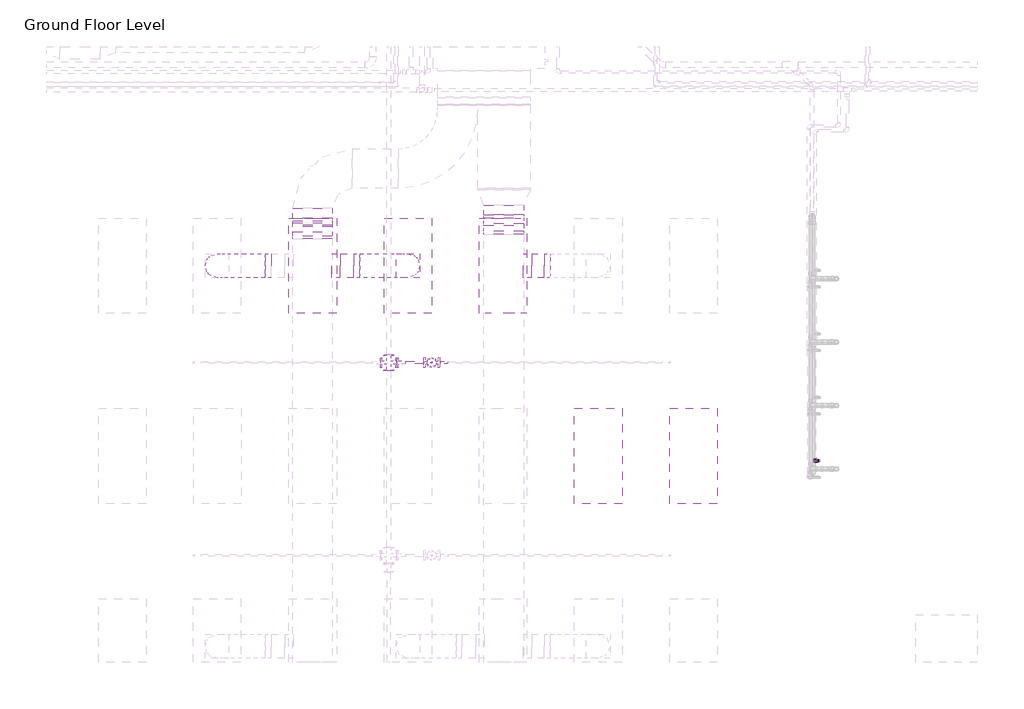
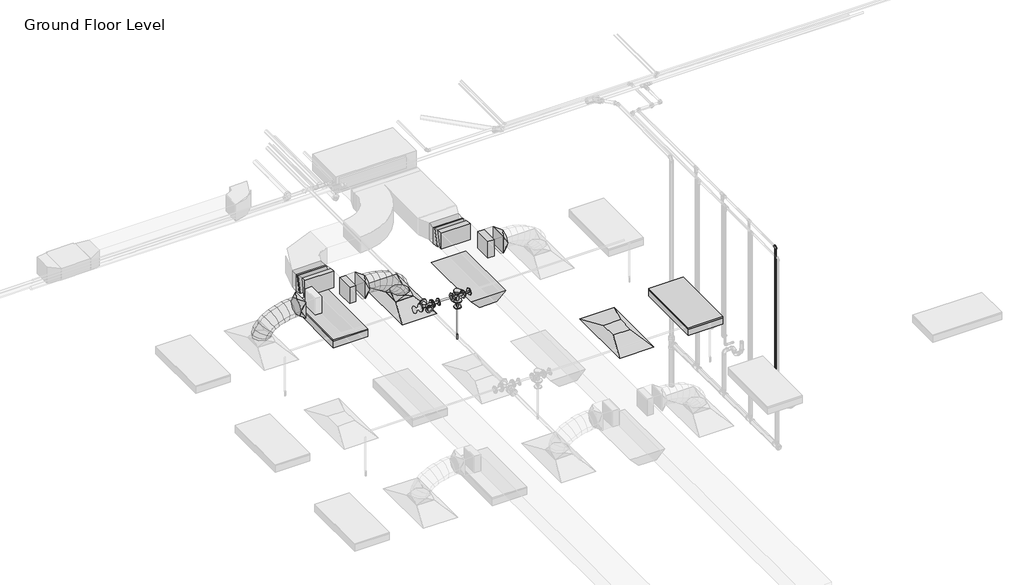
# One storey, part 49 of 72: 11 duct fittings, 8 duct segments, 7 pipe fittings, 4 pipe segments, 3 light fixtures, 2 air terminals, 1 fire suppression terminal.
"""IFC4 building model written with IfcOpenShell, lengths in millimetres."""

from ifc_helpers import new_model, si_unit, point, frame, frame_2d, origin, place, context, project, spatial, polyline, circle_curve, ellipse_curve, trimmed, segment, composite_curve, outline, extrude, transform, mapped, element, save
from ifc_brep_helpers import plane_surface, cylinder_surface, advanced_brep
from components import m_return_diffuser_1200x600_1200_x_600_face_300_x_300_d1983ef6, m_rectangular_elbow_radius_1_w_f78a0081, m_rectangular_elbow_radius_1_w_1a1d0e92, m_rectangular_takeoff_standard_cb0ccb98, m_rectangular_transition_angle_45_degree_8d40617b, m_rectangular_to_round_transition_angle_45_degree_641efff0, m_sprinkler_dry_pendent_hosted_15_mm_dry_pendent_9bda8e11, m_emergency_recessed_lighting_fixture_600x1200_277_5b10b25d, m_troffer_light_parabolic_rectangular1_0600x1200mm_4_lamp_86473d4a, m_cross_flanged_cs_class_150_standard_fc817054, m_reducer_flanged_cs_class_150_standard_ccf252ad, m_reducer_flanged_cs_class_150_standard_d42b2106, m_reducer_flanged_cs_class_150_standard_8338f9e4, m_tee_round_base_flanged_cs_class_150_standard_7e5987a1, standard_b266ab3f

model = new_model("IFC4")

# Units and contexts
model_context = context("Model", 3, world=origin())
ifc_project = project(units=[si_unit("LENGTHUNIT", "METRE", prefix="MILLI")], contexts=[model_context])

# Site, building, storey
site = spatial("IfcSite", under=ifc_project)
building = spatial("IfcBuilding", under=site)
storey = spatial("IfcBuildingStorey", under=building, Name="Ground Floor Level", Elevation=900.0)

# Air terminals
placement = place(None, origin())
m_return_diffuser_1200x600_1200_x_600_face_300_x_300_shape = m_return_diffuser_1200x600_1200_x_600_face_300_x_300_d1983ef6(model_context)
element("IfcAirTerminal", 1, ObjectType="M_Return Diffuser 1200x600 : 1200 x 600 Face 300 x 300 Connection", at=placement, inside=storey, context=model_context, shape_type="MappedRepresentation", body=[
    mapped(m_return_diffuser_1200x600_1200_x_600_face_300_x_300_shape, transform((-3337.2327605, 8835.2153534, 3650.0), x_axis=(0.0, 1.0, 0.0), y_axis=(-1.0, 0.0, 0.0), z_axis=(0.0, 0.0, 1.0))),
])
element("IfcAirTerminal", 2, ObjectType="M_Supply Diffuser 1200x600 : 1200 x 600 Face 300 x 300 Connection", at=placement, inside=storey, context=model_context, shape_type="MappedRepresentation", body=[
    mapped(m_return_diffuser_1200x600_1200_x_600_face_300_x_300_shape, transform((-5737.2327605, 11235.2153534, 3650.0), x_axis=(0.0, 1.0, 0.0), y_axis=(-1.0, 0.0, 0.0), z_axis=(0.0, 0.0, 1.0))),
])

# Duct fittings
m_rectangular_elbow_radius_1_w_shape = m_rectangular_elbow_radius_1_w_f78a0081(model_context)
element("IfcDuctFitting", 3, ObjectType="M_Rectangular Elbow - Radius : 1 W", at=placement, inside=storey, context=model_context, shape_type="MappedRepresentation", body=[
    mapped(m_rectangular_elbow_radius_1_w_shape, transform((-4528.6910789, 11671.1593756, 4149.9980527), x_axis=(0.0, 0.999999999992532, -3.864729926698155e-06), y_axis=(0.0, -3.864729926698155e-06, -0.999999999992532), z_axis=(-1.0, 0.0, 0.0))),
])
element("IfcDuctFitting", 4, ObjectType="M_Rectangular Elbow - Radius : 1 W", at=placement, inside=storey, context=model_context, shape_type="MappedRepresentation", body=[
    mapped(m_rectangular_elbow_radius_1_w_shape, transform((-4528.6910789, 11835.9032855, 4107.134916), x_axis=(0.0, -0.999999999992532, 3.864729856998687e-06), y_axis=(0.0, 3.864729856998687e-06, 0.999999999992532), z_axis=(-1.0, 0.0, 0.0))),
])
m_rectangular_elbow_radius_1_w_2_shape = m_rectangular_elbow_radius_1_w_1a1d0e92(model_context)
element("IfcDuctFitting", 5, ObjectType="M_Rectangular Elbow - Radius : 1 W", at=placement, inside=storey, context=model_context, shape_type="MappedRepresentation", body=[
    mapped(m_rectangular_elbow_radius_1_w_2_shape, transform((-6939.6910789, 11605.2153534, 4150.0), x_axis=(0.0, 1.0, 0.0), y_axis=(-4.8368849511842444e-06, 0.0, -0.9999999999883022), z_axis=(-0.9999999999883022, 0.0, 4.8368849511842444e-06))),
])
element("IfcDuctFitting", 6, ObjectType="M_Rectangular Elbow - Radius : 1 W", at=placement, inside=storey, context=model_context, shape_type="MappedRepresentation", body=[
    mapped(m_rectangular_elbow_radius_1_w_2_shape, transform((-6939.6912607, 11801.8710367, 4107.1399598), x_axis=(0.0, -1.0, 0.0), y_axis=(4.836885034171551e-06, 0.0, 0.9999999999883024), z_axis=(-0.9999999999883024, 0.0, 4.836885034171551e-06))),
])
m_rectangular_takeoff_standard_shape = m_rectangular_takeoff_standard_cb0ccb98(model_context)
element("IfcDuctFitting", 7, ObjectType="M_Rectangular Takeoff : Standard", at=placement, inside=storey, context=model_context, shape_type="MappedRepresentation", body=[
    mapped(m_rectangular_takeoff_standard_shape, transform((-4278.6910789, 11235.2153534, 4150.0), x_axis=(1.0, 0.0, 0.0), y_axis=(0.0, -1.0, 0.0), z_axis=(0.0, 0.0, -1.0))),
])
element("IfcDuctFitting", 8, ObjectType="M_Rectangular Takeoff : Standard", at=placement, inside=storey, context=model_context, shape_type="MappedRepresentation", body=[
    mapped(m_rectangular_takeoff_standard_shape, transform((-6689.6910789, 11235.2153534, 4150.0), x_axis=(1.0, 0.0, 0.0), y_axis=(0.0, -1.0, 0.0), z_axis=(0.0, 0.0, -1.0))),
])
m_rectangular_transition_angle_45_degree_shape = m_rectangular_transition_angle_45_degree_8d40617b(model_context)
element("IfcDuctFitting", 9, ObjectType="M_Rectangular Transition - Angle : 45 Degree", at=placement, inside=storey, context=model_context, shape_type="MappedRepresentation", body=[
    mapped(m_rectangular_transition_angle_45_degree_shape, transform((-6939.6912351, 11774.1025359, 4112.4195134), x_axis=(9.034404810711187e-07, -0.9824014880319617, 0.18678146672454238), y_axis=(0.9999999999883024, 0.0, -4.836885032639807e-06), z_axis=(4.751763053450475e-06, 0.1867814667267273, 0.9824014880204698))),
])
m_rectangular_to_round_transition_angle_45_degree_shape = m_rectangular_to_round_transition_angle_45_degree_641efff0(model_context)
element("IfcDuctFitting", 10, ObjectType="M_Rectangular to Round Transition - Angle : 45 Degree", at=placement, inside=storey, context=model_context, shape_type="MappedRepresentation", body=[
    mapped(m_rectangular_to_round_transition_angle_45_degree_shape, transform((-7461.2487616, 11235.2153534, 4150.0), x_axis=(-1.0, 0.0, 0.0), y_axis=(0.0, -1.0, 0.0), z_axis=(0.0, 0.0, 1.0))),
])
element("IfcDuctFitting", 11, ObjectType="M_Rectangular to Round Transition - Angle : 45 Degree", at=placement, inside=storey, context=model_context, shape_type="MappedRepresentation", body=[
    mapped(m_rectangular_to_round_transition_angle_45_degree_shape, transform((-5737.2327605, 11235.2153534, 3751.6), x_axis=(0.0, 0.0, 1.0), y_axis=(-1.0, 0.0, 0.0), z_axis=(0.0, -1.0, 0.0))),
])
element("IfcDuctFitting", 12, ObjectType="M_Rectangular to Round Transition - Angle : 45 Degree", at=placement, inside=storey, context=model_context, shape_type="MappedRepresentation", body=[
    mapped(m_rectangular_to_round_transition_angle_45_degree_shape, transform((-6418.6686918, 11235.2153534, 4150.0), x_axis=(1.0, 0.0, 0.0), y_axis=(0.0, 1.0, 0.0), z_axis=(0.0, 0.0, 1.0))),
])
element("IfcDuctFitting", 13, ObjectType="M_Rectangular to Round Transition - Angle : 45 Degree", at=placement, inside=storey, context=model_context, shape_type="MappedRepresentation", body=[
    mapped(m_rectangular_to_round_transition_angle_45_degree_shape, transform((-4018.6725245, 11235.2153534, 4150.0), x_axis=(1.0, 0.0, 0.0), y_axis=(0.0, 1.0, 0.0), z_axis=(0.0, 0.0, 1.0))),
])

# Duct segments
element("IfcDuctSegment", 14, ObjectType="Flex - Round", at=placement, inside=storey, context=model_context, shape_type="AdvancedBrep", body=[
    advanced_brep(
    [(-7992.6846929, 11235.2153534, 3826.6), (-8142.6846929, 11085.2153534, 3826.6), (-8292.6846929, 11235.2153534, 3826.6), (-8142.6846929, 11385.2153534, 3826.6), (-7992.6846929, 11235.2153534, 3832.4838104), (-8142.6846929, 11085.2153534, 3857.3049615), (-8292.6846929, 11235.2153534, 3882.1261126), (-8142.6846929, 11385.2153534, 3857.3049615), (-7990.555208, 11235.2153534, 3838.7421096), (-8126.0232883, 11085.2153534, 3906.2708192), (-8261.4913687, 11235.2153534, 3973.7995287), (-8126.0232883, 11385.2153534, 3906.2708192), (-7968.5331802, 11235.2153534, 3871.1472855), (-8080.1452707, 11085.2153534, 3973.7798261), (-8191.7573612, 11235.2153534, 4076.4123668), (-8080.1452707, 11385.2153534, 3973.7798261), (-7928.5904556, 11235.2153534, 3903.4915826), (-8011.2099341, 11085.2153534, 4029.6013814), (-8093.8294126, 11235.2153534, 4155.7111802), (-8011.2099341, 11385.2153534, 4029.6013814), (-7865.6682729, 11235.2153534, 3936.1928758), (-7925.3765727, 11085.2153534, 4074.2098454), (-7985.0848725, 11235.2153534, 4212.226815), (-7925.3765727, 11385.2153534, 4074.2098454), (-7786.815881, 11235.2153534, 3963.8479616), (-7828.8044806, 11085.2153534, 4108.0795788), (-7870.7930803, 11235.2153534, 4252.311196), (-7828.8044806, 11385.2153534, 4108.0795788), (-7700.2438983, 11235.2153534, 3984.0509494), (-7727.652952, 11085.2153534, 4131.684942), (-7755.0620057, 11235.2153534, 4279.3189347), (-7727.652952, 11385.2153534, 4131.684942), (-7613.759715, 11235.2153534, 3996.0504424), (-7628.081281, 11085.2153534, 4145.5002956), (-7642.4028469, 11235.2153534, 4294.9501488), (-7628.081281, 11385.2153534, 4145.5002956), (-7539.5984134, 11235.2153534, 4000.0), (-7543.5898089, 11085.2153534, 4150.0), (-7547.5812043, 11235.2153534, 4300.0), (-7543.5898089, 11385.2153534, 4150.0), (-7536.2487616, 11235.2153534, 4000.0), (-7536.2487616, 11385.2153534, 4150.0), (-7536.2487616, 11235.2153534, 4300.0), (-7536.2487616, 11085.2153534, 4150.0)],
    [
        (0, 1, circle_curve(frame((-8142.6846929, 11235.2153534, 3826.6), z_axis=(0.0, 0.0, -1.0), x_axis=(1.0, 0.0, 0.0)), 150.0)),
        (1, 2, circle_curve(frame((-8142.6846929, 11235.2153534, 3826.6), z_axis=(0.0, 0.0, -1.0), x_axis=(1.0, 0.0, 0.0)), 150.0)),
        (2, 3, circle_curve(frame((-8142.6846929, 11235.2153534, 3826.6), z_axis=(0.0, 0.0, -1.0), x_axis=(1.0, 0.0, 0.0)), 150.0)),
        (3, 0, circle_curve(frame((-8142.6846929, 11235.2153534, 3826.6), z_axis=(0.0, 0.0, -1.0), x_axis=(1.0, 0.0, 0.0)), 150.0)),
        (0, 4),
        (4, 5, ellipse_curve(frame((-8142.6846929, 11235.2153534, 3857.3049615), z_axis=(-0.1632543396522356, 0.0, -0.9865840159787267), x_axis=(0.9865840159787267, 0.0, -0.16325433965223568)), 152.039763, 150.0)),
        (5, 1),
        (5, 6, ellipse_curve(frame((-8142.6846929, 11235.2153534, 3857.3049615), z_axis=(-0.1632543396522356, 0.0, -0.9865840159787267), x_axis=(0.9865840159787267, 0.0, -0.16325433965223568)), 152.039763, 150.0)),
        (6, 2),
        (6, 7, ellipse_curve(frame((-8142.6846929, 11235.2153534, 3857.3049615), z_axis=(-0.1632543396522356, 0.0, -0.9865840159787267), x_axis=(0.9865840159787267, 0.0, -0.16325433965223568)), 152.039763, 150.0)),
        (7, 3),
        (7, 4, ellipse_curve(frame((-8142.6846929, 11235.2153534, 3857.3049615), z_axis=(-0.1632543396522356, 0.0, -0.9865840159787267), x_axis=(0.9865840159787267, 0.0, -0.16325433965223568)), 152.039763, 150.0)),
        (4, 8),
        (8, 9, ellipse_curve(frame((-8126.0232883, 11235.2153534, 3906.2708192), z_axis=(-0.4461280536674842, 0.0, -0.8949691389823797), x_axis=(0.8949691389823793, 0.0, -0.4461280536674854)), 151.366203, 150.0)),
        (9, 5),
        (9, 10, ellipse_curve(frame((-8126.0232883, 11235.2153534, 3906.2708192), z_axis=(-0.4461280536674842, 0.0, -0.8949691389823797), x_axis=(0.8949691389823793, 0.0, -0.4461280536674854)), 151.366203, 150.0)),
        (10, 6),
        (10, 11, ellipse_curve(frame((-8126.0232883, 11235.2153534, 3906.2708192), z_axis=(-0.4461280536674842, 0.0, -0.8949691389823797), x_axis=(0.8949691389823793, 0.0, -0.4461280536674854)), 151.366203, 150.0)),
        (11, 7),
        (11, 8, ellipse_curve(frame((-8126.0232883, 11235.2153534, 3906.2708192), z_axis=(-0.4461280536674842, 0.0, -0.8949691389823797), x_axis=(0.8949691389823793, 0.0, -0.4461280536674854)), 151.366203, 150.0)),
        (8, 12),
        (12, 13, ellipse_curve(frame((-8080.1452707, 11235.2153534, 3973.7798261), z_axis=(-0.676875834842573, 0.0, -0.7360972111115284), x_axis=(0.7360972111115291, 0.0, -0.6768758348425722)), 151.6268352, 150.0)),
        (13, 9),
        (13, 14, ellipse_curve(frame((-8080.1452707, 11235.2153534, 3973.7798261), z_axis=(-0.676875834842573, 0.0, -0.7360972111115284), x_axis=(0.7360972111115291, 0.0, -0.6768758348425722)), 151.6268352, 150.0)),
        (14, 10),
        (14, 15, ellipse_curve(frame((-8080.1452707, 11235.2153534, 3973.7798261), z_axis=(-0.676875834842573, 0.0, -0.7360972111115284), x_axis=(0.7360972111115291, 0.0, -0.6768758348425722)), 151.6268352, 150.0)),
        (15, 11),
        (15, 12, ellipse_curve(frame((-8080.1452707, 11235.2153534, 3973.7798261), z_axis=(-0.676875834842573, 0.0, -0.7360972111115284), x_axis=(0.7360972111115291, 0.0, -0.6768758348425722)), 151.6268352, 150.0)),
        (12, 16),
        (16, 17, ellipse_curve(frame((-8011.2099341, 11235.2153534, 4029.6013814), z_axis=(-0.8364738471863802, 0.0, -0.5480068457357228), x_axis=(0.5480068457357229, 0.0, -0.8364738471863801)), 150.7635884, 150.0)),
        (17, 13),
        (17, 18, ellipse_curve(frame((-8011.2099341, 11235.2153534, 4029.6013814), z_axis=(-0.8364738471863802, 0.0, -0.5480068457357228), x_axis=(0.5480068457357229, 0.0, -0.8364738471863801)), 150.7635884, 150.0)),
        (18, 14),
        (18, 19, ellipse_curve(frame((-8011.2099341, 11235.2153534, 4029.6013814), z_axis=(-0.8364738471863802, 0.0, -0.5480068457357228), x_axis=(0.5480068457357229, 0.0, -0.8364738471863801)), 150.7635884, 150.0)),
        (19, 15),
        (19, 16, ellipse_curve(frame((-8011.2099341, 11235.2153534, 4029.6013814), z_axis=(-0.8364738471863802, 0.0, -0.5480068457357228), x_axis=(0.5480068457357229, 0.0, -0.8364738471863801)), 150.7635884, 150.0)),
        (16, 20),
        (20, 21, ellipse_curve(frame((-7925.3765727, 11235.2153534, 4074.2098454), z_axis=(-0.917795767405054, 0.0, -0.3970528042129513), x_axis=(0.3970528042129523, 0.0, -0.9177957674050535)), 150.3787384, 150.0)),
        (21, 17),
        (21, 22, ellipse_curve(frame((-7925.3765727, 11235.2153534, 4074.2098454), z_axis=(-0.917795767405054, 0.0, -0.3970528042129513), x_axis=(0.3970528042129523, 0.0, -0.9177957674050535)), 150.3787384, 150.0)),
        (22, 18),
        (22, 23, ellipse_curve(frame((-7925.3765727, 11235.2153534, 4074.2098454), z_axis=(-0.917795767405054, 0.0, -0.3970528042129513), x_axis=(0.3970528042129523, 0.0, -0.9177957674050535)), 150.3787384, 150.0)),
        (23, 19),
        (23, 20, ellipse_curve(frame((-7925.3765727, 11235.2153534, 4074.2098454), z_axis=(-0.917795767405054, 0.0, -0.3970528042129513), x_axis=(0.3970528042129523, 0.0, -0.9177957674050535)), 150.3787384, 150.0)),
        (20, 24),
        (24, 25, ellipse_curve(frame((-7828.8044806, 11235.2153534, 4108.0795788), z_axis=(-0.9601411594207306, 0.0, -0.2795155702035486), x_axis=(0.27951557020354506, 0.0, -0.9601411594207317)), 150.2191795, 150.0)),
        (25, 21),
        (25, 26, ellipse_curve(frame((-7828.8044806, 11235.2153534, 4108.0795788), z_axis=(-0.9601411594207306, 0.0, -0.2795155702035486), x_axis=(0.27951557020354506, 0.0, -0.9601411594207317)), 150.2191795, 150.0)),
        (26, 22),
        (26, 27, ellipse_curve(frame((-7828.8044806, 11235.2153534, 4108.0795788), z_axis=(-0.9601411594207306, 0.0, -0.2795155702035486), x_axis=(0.27951557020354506, 0.0, -0.9601411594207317)), 150.2191795, 150.0)),
        (27, 23),
        (27, 24, ellipse_curve(frame((-7828.8044806, 11235.2153534, 4108.0795788), z_axis=(-0.9601411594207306, 0.0, -0.2795155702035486), x_axis=(0.27951557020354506, 0.0, -0.9601411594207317)), 150.2191795, 150.0)),
        (24, 28),
        (28, 29, ellipse_curve(frame((-7727.652952, 11235.2153534, 4131.684942), z_axis=(-0.9831991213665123, 0.0, -0.1825362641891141), x_axis=(0.18253626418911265, 0.0, -0.9831991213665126)), 150.1567581, 150.0)),
        (29, 25),
        (29, 30, ellipse_curve(frame((-7727.652952, 11235.2153534, 4131.684942), z_axis=(-0.9831991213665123, 0.0, -0.1825362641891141), x_axis=(0.18253626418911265, 0.0, -0.9831991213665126)), 150.1567581, 150.0)),
        (30, 26),
        (30, 31, ellipse_curve(frame((-7727.652952, 11235.2153534, 4131.684942), z_axis=(-0.9831991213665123, 0.0, -0.1825362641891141), x_axis=(0.18253626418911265, 0.0, -0.9831991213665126)), 150.1567581, 150.0)),
        (31, 27),
        (31, 28, ellipse_curve(frame((-7727.652952, 11235.2153534, 4131.684942), z_axis=(-0.9831991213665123, 0.0, -0.1825362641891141), x_axis=(0.18253626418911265, 0.0, -0.9831991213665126)), 150.1567581, 150.0)),
        (28, 32),
        (32, 33, ellipse_curve(frame((-7628.081281, 11235.2153534, 4145.5002956), z_axis=(-0.9954398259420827, 0.0, -0.09539157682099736), x_axis=(0.09539157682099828, 0.0, -0.9954398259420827)), 150.1344926, 150.0)),
        (33, 29),
        (33, 34, ellipse_curve(frame((-7628.081281, 11235.2153534, 4145.5002956), z_axis=(-0.9954398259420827, 0.0, -0.09539157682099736), x_axis=(0.09539157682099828, 0.0, -0.9954398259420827)), 150.1344926, 150.0)),
        (34, 30),
        (34, 35, ellipse_curve(frame((-7628.081281, 11235.2153534, 4145.5002956), z_axis=(-0.9954398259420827, 0.0, -0.09539157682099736), x_axis=(0.09539157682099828, 0.0, -0.9954398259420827)), 150.1344926, 150.0)),
        (35, 31),
        (35, 32, ellipse_curve(frame((-7628.081281, 11235.2153534, 4145.5002956), z_axis=(-0.9954398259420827, 0.0, -0.09539157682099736), x_axis=(0.09539157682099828, 0.0, -0.9954398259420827)), 150.1344926, 150.0)),
        (32, 36),
        (36, 37, ellipse_curve(frame((-7543.5898089, 11235.2153534, 4150.0), z_axis=(-0.9996461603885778, 0.0, -0.026599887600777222), x_axis=(0.026599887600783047, 0.0, -0.9996461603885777)), 150.0530947, 150.0)),
        (37, 33),
        (37, 38, ellipse_curve(frame((-7543.5898089, 11235.2153534, 4150.0), z_axis=(-0.9996461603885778, 0.0, -0.026599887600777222), x_axis=(0.026599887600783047, 0.0, -0.9996461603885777)), 150.0530947, 150.0)),
        (38, 34),
        (38, 39, ellipse_curve(frame((-7543.5898089, 11235.2153534, 4150.0), z_axis=(-0.9996461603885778, 0.0, -0.026599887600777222), x_axis=(0.026599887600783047, 0.0, -0.9996461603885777)), 150.0530947, 150.0)),
        (39, 35),
        (39, 36, ellipse_curve(frame((-7543.5898089, 11235.2153534, 4150.0), z_axis=(-0.9996461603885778, 0.0, -0.026599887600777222), x_axis=(0.026599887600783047, 0.0, -0.9996461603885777)), 150.0530947, 150.0)),
        (40, 41, circle_curve(frame((-7536.2487616, 11235.2153534, 4150.0), z_axis=(1.0, 0.0, 0.0), x_axis=(0.0, 0.0, -1.0)), 150.0)),
        (41, 42, circle_curve(frame((-7536.2487616, 11235.2153534, 4150.0), z_axis=(1.0, 0.0, 0.0), x_axis=(0.0, 0.0, -1.0)), 150.0)),
        (42, 43, circle_curve(frame((-7536.2487616, 11235.2153534, 4150.0), z_axis=(1.0, 0.0, 0.0), x_axis=(0.0, 0.0, -1.0)), 150.0)),
        (43, 40, circle_curve(frame((-7536.2487616, 11235.2153534, 4150.0), z_axis=(1.0, 0.0, 0.0), x_axis=(0.0, 0.0, -1.0)), 150.0)),
        (36, 40),
        (43, 37),
        (42, 38),
        (41, 39),
    ],
    [
        plane_surface(frame((-8142.6846929, 11085.2153534, 3826.6), z_axis=(0.0, 0.0, -1.0), x_axis=(1.0, 0.0, 0.0))),
        cylinder_surface(frame((-8142.6846929, 11235.2153534, 3826.6), z_axis=(0.0, 0.0, -1.0), x_axis=(1.0, 0.0, 0.0)), 150.0),
        cylinder_surface(frame((-8142.6846929, 11235.2153534, 3857.3049615), z_axis=(-0.32212824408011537, 0.0, -0.946696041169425), x_axis=(0.946696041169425, 0.0, -0.32212824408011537)), 150.0),
        cylinder_surface(frame((-8126.0232883, 11235.2153534, 3906.2708192), z_axis=(-0.5620745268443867, 0.0, -0.8270865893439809), x_axis=(0.8270865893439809, 0.0, -0.5620745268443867)), 150.0),
        cylinder_surface(frame((-8080.1452707, 11235.2153534, 3973.7798261), z_axis=(-0.777152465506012, 0.0, -0.6293123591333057), x_axis=(0.6293123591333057, 0.0, -0.777152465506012)), 150.0),
        cylinder_surface(frame((-8011.2099341, 11235.2153534, 4029.6013814), z_axis=(-0.887322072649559, 0.0, -0.4611502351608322), x_axis=(0.4611502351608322, 0.0, -0.887322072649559)), 150.0),
        cylinder_surface(frame((-7925.3765727, 11235.2153534, 4074.2098454), z_axis=(-0.9436464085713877, 0.0, -0.3309553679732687), x_axis=(0.3309553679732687, 0.0, -0.9436464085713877)), 150.0),
        cylinder_surface(frame((-7828.8044806, 11235.2153534, 4108.0795788), z_axis=(-0.9738340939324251, 0.0, -0.2272601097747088), x_axis=(0.2272601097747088, 0.0, -0.9738340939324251)), 150.0),
        cylinder_surface(frame((-7727.652952, 11235.2153534, 4131.684942), z_axis=(-0.9905113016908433, 0.0, -0.1374312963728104), x_axis=(0.1374312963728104, 0.0, -0.9905113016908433)), 150.0),
        cylinder_surface(frame((-7628.081281, 11235.2153534, 4145.5002956), z_axis=(-0.998584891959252, 0.0, -0.05318095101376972), x_axis=(0.05318095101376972, 0.0, -0.998584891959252)), 150.0),
        plane_surface(frame((-7536.2487616, 11235.2153534, 4000.0), z_axis=(1.0, 0.0, 0.0), x_axis=(0.0, 1.0, 0.0))),
        cylinder_surface(frame((-7543.5898089, 11235.2153534, 4150.0), z_axis=(-1.0, 0.0, 0.0), x_axis=(0.0, 0.0, -1.0)), 150.0),
    ],
    [
        (0, [[1, 2, 3, 4]]),
        (1, [[-1, 5, 6, 7]]),
        (1, [[-2, -7, 8, 9]]),
        (1, [[-3, -9, 10, 11]]),
        (1, [[-4, -11, 12, -5]]),
        (2, [[-6, 13, 14, 15]]),
        (2, [[-8, -15, 16, 17]]),
        (2, [[-10, -17, 18, 19]]),
        (2, [[-12, -19, 20, -13]]),
        (3, [[-14, 21, 22, 23]]),
        (3, [[-16, -23, 24, 25]]),
        (3, [[-18, -25, 26, 27]]),
        (3, [[-20, -27, 28, -21]]),
        (4, [[-22, 29, 30, 31]]),
        (4, [[-24, -31, 32, 33]]),
        (4, [[-26, -33, 34, 35]]),
        (4, [[-28, -35, 36, -29]]),
        (5, [[-30, 37, 38, 39]]),
        (5, [[-32, -39, 40, 41]]),
        (5, [[-34, -41, 42, 43]]),
        (5, [[-36, -43, 44, -37]]),
        (6, [[-38, 45, 46, 47]]),
        (6, [[-40, -47, 48, 49]]),
        (6, [[-42, -49, 50, 51]]),
        (6, [[-44, -51, 52, -45]]),
        (7, [[-46, 53, 54, 55]]),
        (7, [[-48, -55, 56, 57]]),
        (7, [[-50, -57, 58, 59]]),
        (7, [[-52, -59, 60, -53]]),
        (8, [[-54, 61, 62, 63]]),
        (8, [[-56, -63, 64, 65]]),
        (8, [[-58, -65, 66, 67]]),
        (8, [[-60, -67, 68, -61]]),
        (9, [[-62, 69, 70, 71]]),
        (9, [[-64, -71, 72, 73]]),
        (9, [[-66, -73, 74, 75]]),
        (9, [[-68, -75, 76, -69]]),
        (10, [[77, 78, 79, 80]]),
        (11, [[-70, 81, -80, 82]]),
        (11, [[-72, -82, -79, 83]]),
        (11, [[-74, -83, -78, 84]]),
        (11, [[-76, -84, -77, -81]]),
    ],
),
])
element("IfcDuctSegment", 15, ObjectType="Flex - Round", at=placement, inside=storey, context=model_context, shape_type="AdvancedBrep", body=[
    advanced_brep(
    [(-5587.2327605, 11235.2153534, 3826.6), (-5737.2327605, 11085.2153534, 3826.6), (-5887.2327605, 11235.2153534, 3826.6), (-5737.2327605, 11385.2153534, 3826.6), (-5587.2327605, 11235.2153534, 3882.1261126), (-5737.2327605, 11085.2153534, 3857.3049615), (-5887.2327605, 11235.2153534, 3832.4838104), (-5737.2327605, 11385.2153534, 3857.3049615), (-5618.4260847, 11235.2153534, 3973.7995287), (-5753.8941651, 11085.2153534, 3906.2708192), (-5889.3622454, 11235.2153534, 3838.7421096), (-5753.8941651, 11385.2153534, 3906.2708192), (-5688.1600922, 11235.2153534, 4076.4123668), (-5799.7721827, 11085.2153534, 3973.7798261), (-5911.3842733, 11235.2153534, 3871.1472855), (-5799.7721827, 11385.2153534, 3973.7798261), (-5786.0880408, 11235.2153534, 4155.7111802), (-5868.7075193, 11085.2153534, 4029.6013814), (-5951.3269979, 11235.2153534, 3903.4915826), (-5868.7075193, 11385.2153534, 4029.6013814), (-5894.832581, 11235.2153534, 4212.226815), (-5954.5408807, 11085.2153534, 4074.2098454), (-6014.2491805, 11235.2153534, 3936.1928758), (-5954.5408807, 11385.2153534, 4074.2098454), (-6009.1243732, 11235.2153534, 4252.311196), (-6051.1129728, 11085.2153534, 4108.0795788), (-6093.1015724, 11235.2153534, 3963.8479616), (-6051.1129728, 11385.2153534, 4108.0795788), (-6124.8554478, 11235.2153534, 4279.3189347), (-6152.2645014, 11085.2153534, 4131.684942), (-6179.6735551, 11235.2153534, 3984.0509494), (-6152.2645014, 11385.2153534, 4131.684942), (-6237.5146065, 11235.2153534, 4294.9501488), (-6251.8361725, 11085.2153534, 4145.5002956), (-6266.1577385, 11235.2153534, 3996.0504424), (-6251.8361725, 11385.2153534, 4145.5002956), (-6332.3362491, 11235.2153534, 4300.0), (-6336.3276445, 11085.2153534, 4150.0), (-6340.31904, 11235.2153534, 4000.0), (-6336.3276445, 11385.2153534, 4150.0), (-6343.6686918, 11235.2153534, 4300.0), (-6343.6686918, 11385.2153534, 4150.0), (-6343.6686918, 11235.2153534, 4000.0), (-6343.6686918, 11085.2153534, 4150.0)],
    [
        (0, 1, circle_curve(frame((-5737.2327605, 11235.2153534, 3826.6), z_axis=(0.0, 0.0, -1.0), x_axis=(1.0, 0.0, 0.0)), 150.0)),
        (1, 2, circle_curve(frame((-5737.2327605, 11235.2153534, 3826.6), z_axis=(0.0, 0.0, -1.0), x_axis=(1.0, 0.0, 0.0)), 150.0)),
        (2, 3, circle_curve(frame((-5737.2327605, 11235.2153534, 3826.6), z_axis=(0.0, 0.0, -1.0), x_axis=(1.0, 0.0, 0.0)), 150.0)),
        (3, 0, circle_curve(frame((-5737.2327605, 11235.2153534, 3826.6), z_axis=(0.0, 0.0, -1.0), x_axis=(1.0, 0.0, 0.0)), 150.0)),
        (0, 4),
        (4, 5, ellipse_curve(frame((-5737.2327605, 11235.2153534, 3857.3049615), z_axis=(0.1632543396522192, 0.0, -0.9865840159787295), x_axis=(-0.9865840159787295, 0.0, -0.16325433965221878)), 152.039763, 150.0)),
        (5, 1),
        (5, 6, ellipse_curve(frame((-5737.2327605, 11235.2153534, 3857.3049615), z_axis=(0.1632543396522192, 0.0, -0.9865840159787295), x_axis=(-0.9865840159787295, 0.0, -0.16325433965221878)), 152.039763, 150.0)),
        (6, 2),
        (6, 7, ellipse_curve(frame((-5737.2327605, 11235.2153534, 3857.3049615), z_axis=(0.1632543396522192, 0.0, -0.9865840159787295), x_axis=(-0.9865840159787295, 0.0, -0.16325433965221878)), 152.039763, 150.0)),
        (7, 3),
        (7, 4, ellipse_curve(frame((-5737.2327605, 11235.2153534, 3857.3049615), z_axis=(0.1632543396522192, 0.0, -0.9865840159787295), x_axis=(-0.9865840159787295, 0.0, -0.16325433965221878)), 152.039763, 150.0)),
        (4, 8),
        (8, 9, ellipse_curve(frame((-5753.8941651, 11235.2153534, 3906.2708192), z_axis=(0.44612805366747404, 0.0, -0.8949691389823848), x_axis=(-0.8949691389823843, 0.0, -0.44612805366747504)), 151.366203, 150.0)),
        (9, 5),
        (9, 10, ellipse_curve(frame((-5753.8941651, 11235.2153534, 3906.2708192), z_axis=(0.44612805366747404, 0.0, -0.8949691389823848), x_axis=(-0.8949691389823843, 0.0, -0.44612805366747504)), 151.366203, 150.0)),
        (10, 6),
        (10, 11, ellipse_curve(frame((-5753.8941651, 11235.2153534, 3906.2708192), z_axis=(0.44612805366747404, 0.0, -0.8949691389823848), x_axis=(-0.8949691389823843, 0.0, -0.44612805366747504)), 151.366203, 150.0)),
        (11, 7),
        (11, 8, ellipse_curve(frame((-5753.8941651, 11235.2153534, 3906.2708192), z_axis=(0.44612805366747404, 0.0, -0.8949691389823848), x_axis=(-0.8949691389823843, 0.0, -0.44612805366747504)), 151.366203, 150.0)),
        (8, 12),
        (12, 13, ellipse_curve(frame((-5799.7721827, 11235.2153534, 3973.7798261), z_axis=(0.6768758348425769, 0.0, -0.7360972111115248), x_axis=(-0.7360972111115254, 0.0, -0.6768758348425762)), 151.6268352, 150.0)),
        (13, 9),
        (13, 14, ellipse_curve(frame((-5799.7721827, 11235.2153534, 3973.7798261), z_axis=(0.6768758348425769, 0.0, -0.7360972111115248), x_axis=(-0.7360972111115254, 0.0, -0.6768758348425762)), 151.6268352, 150.0)),
        (14, 10),
        (14, 15, ellipse_curve(frame((-5799.7721827, 11235.2153534, 3973.7798261), z_axis=(0.6768758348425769, 0.0, -0.7360972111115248), x_axis=(-0.7360972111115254, 0.0, -0.6768758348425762)), 151.6268352, 150.0)),
        (15, 11),
        (15, 12, ellipse_curve(frame((-5799.7721827, 11235.2153534, 3973.7798261), z_axis=(0.6768758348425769, 0.0, -0.7360972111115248), x_axis=(-0.7360972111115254, 0.0, -0.6768758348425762)), 151.6268352, 150.0)),
        (12, 16),
        (16, 17, ellipse_curve(frame((-5868.7075193, 11235.2153534, 4029.6013814), z_axis=(0.8364738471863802, 0.0, -0.5480068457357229), x_axis=(-0.5480068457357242, 0.0, -0.8364738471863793)), 150.7635884, 150.0)),
        (17, 13),
        (17, 18, ellipse_curve(frame((-5868.7075193, 11235.2153534, 4029.6013814), z_axis=(0.8364738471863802, 0.0, -0.5480068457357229), x_axis=(-0.5480068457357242, 0.0, -0.8364738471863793)), 150.7635884, 150.0)),
        (18, 14),
        (18, 19, ellipse_curve(frame((-5868.7075193, 11235.2153534, 4029.6013814), z_axis=(0.8364738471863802, 0.0, -0.5480068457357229), x_axis=(-0.5480068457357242, 0.0, -0.8364738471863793)), 150.7635884, 150.0)),
        (19, 15),
        (19, 16, ellipse_curve(frame((-5868.7075193, 11235.2153534, 4029.6013814), z_axis=(0.8364738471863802, 0.0, -0.5480068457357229), x_axis=(-0.5480068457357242, 0.0, -0.8364738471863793)), 150.7635884, 150.0)),
        (16, 20),
        (20, 21, ellipse_curve(frame((-5954.5408807, 11235.2153534, 4074.2098454), z_axis=(0.9177957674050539, 0.0, -0.39705280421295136), x_axis=(-0.39705280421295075, 0.0, -0.9177957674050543)), 150.3787384, 150.0)),
        (21, 17),
        (21, 22, ellipse_curve(frame((-5954.5408807, 11235.2153534, 4074.2098454), z_axis=(0.9177957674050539, 0.0, -0.39705280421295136), x_axis=(-0.39705280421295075, 0.0, -0.9177957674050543)), 150.3787384, 150.0)),
        (22, 18),
        (22, 23, ellipse_curve(frame((-5954.5408807, 11235.2153534, 4074.2098454), z_axis=(0.9177957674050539, 0.0, -0.39705280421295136), x_axis=(-0.39705280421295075, 0.0, -0.9177957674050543)), 150.3787384, 150.0)),
        (23, 19),
        (23, 20, ellipse_curve(frame((-5954.5408807, 11235.2153534, 4074.2098454), z_axis=(0.9177957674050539, 0.0, -0.39705280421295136), x_axis=(-0.39705280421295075, 0.0, -0.9177957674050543)), 150.3787384, 150.0)),
        (20, 24),
        (24, 25, ellipse_curve(frame((-6051.1129728, 11235.2153534, 4108.0795788), z_axis=(0.9601411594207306, 0.0, -0.2795155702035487), x_axis=(-0.27951557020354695, 0.0, -0.9601411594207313)), 150.2191795, 150.0)),
        (25, 21),
        (25, 26, ellipse_curve(frame((-6051.1129728, 11235.2153534, 4108.0795788), z_axis=(0.9601411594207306, 0.0, -0.2795155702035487), x_axis=(-0.27951557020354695, 0.0, -0.9601411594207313)), 150.2191795, 150.0)),
        (26, 22),
        (26, 27, ellipse_curve(frame((-6051.1129728, 11235.2153534, 4108.0795788), z_axis=(0.9601411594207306, 0.0, -0.2795155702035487), x_axis=(-0.27951557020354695, 0.0, -0.9601411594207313)), 150.2191795, 150.0)),
        (27, 23),
        (27, 24, ellipse_curve(frame((-6051.1129728, 11235.2153534, 4108.0795788), z_axis=(0.9601411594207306, 0.0, -0.2795155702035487), x_axis=(-0.27951557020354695, 0.0, -0.9601411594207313)), 150.2191795, 150.0)),
        (24, 28),
        (28, 29, ellipse_curve(frame((-6152.2645014, 11235.2153534, 4131.684942), z_axis=(0.9831991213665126, 0.0, -0.1825362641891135), x_axis=(-0.1825362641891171, 0.0, -0.9831991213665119)), 150.1567581, 150.0)),
        (29, 25),
        (29, 30, ellipse_curve(frame((-6152.2645014, 11235.2153534, 4131.684942), z_axis=(0.9831991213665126, 0.0, -0.1825362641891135), x_axis=(-0.1825362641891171, 0.0, -0.9831991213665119)), 150.1567581, 150.0)),
        (30, 26),
        (30, 31, ellipse_curve(frame((-6152.2645014, 11235.2153534, 4131.684942), z_axis=(0.9831991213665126, 0.0, -0.1825362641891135), x_axis=(-0.1825362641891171, 0.0, -0.9831991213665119)), 150.1567581, 150.0)),
        (31, 27),
        (31, 28, ellipse_curve(frame((-6152.2645014, 11235.2153534, 4131.684942), z_axis=(0.9831991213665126, 0.0, -0.1825362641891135), x_axis=(-0.1825362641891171, 0.0, -0.9831991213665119)), 150.1567581, 150.0)),
        (28, 32),
        (32, 33, ellipse_curve(frame((-6251.8361725, 11235.2153534, 4145.5002956), z_axis=(0.9954398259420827, 0.0, -0.09539157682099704), x_axis=(-0.09539157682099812, 0.0, -0.9954398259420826)), 150.1344926, 150.0)),
        (33, 29),
        (33, 34, ellipse_curve(frame((-6251.8361725, 11235.2153534, 4145.5002956), z_axis=(0.9954398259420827, 0.0, -0.09539157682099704), x_axis=(-0.09539157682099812, 0.0, -0.9954398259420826)), 150.1344926, 150.0)),
        (34, 30),
        (34, 35, ellipse_curve(frame((-6251.8361725, 11235.2153534, 4145.5002956), z_axis=(0.9954398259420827, 0.0, -0.09539157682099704), x_axis=(-0.09539157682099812, 0.0, -0.9954398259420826)), 150.1344926, 150.0)),
        (35, 31),
        (35, 32, ellipse_curve(frame((-6251.8361725, 11235.2153534, 4145.5002956), z_axis=(0.9954398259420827, 0.0, -0.09539157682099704), x_axis=(-0.09539157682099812, 0.0, -0.9954398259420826)), 150.1344926, 150.0)),
        (32, 36),
        (36, 37, ellipse_curve(frame((-6336.3276445, 11235.2153534, 4150.0), z_axis=(0.9996461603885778, 0.0, -0.026599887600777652), x_axis=(-0.026599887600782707, 0.0, -0.9996461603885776)), 150.0530947, 150.0)),
        (37, 33),
        (37, 38, ellipse_curve(frame((-6336.3276445, 11235.2153534, 4150.0), z_axis=(0.9996461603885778, 0.0, -0.026599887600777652), x_axis=(-0.026599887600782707, 0.0, -0.9996461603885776)), 150.0530947, 150.0)),
        (38, 34),
        (38, 39, ellipse_curve(frame((-6336.3276445, 11235.2153534, 4150.0), z_axis=(0.9996461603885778, 0.0, -0.026599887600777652), x_axis=(-0.026599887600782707, 0.0, -0.9996461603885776)), 150.0530947, 150.0)),
        (39, 35),
        (39, 36, ellipse_curve(frame((-6336.3276445, 11235.2153534, 4150.0), z_axis=(0.9996461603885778, 0.0, -0.026599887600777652), x_axis=(-0.026599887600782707, 0.0, -0.9996461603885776)), 150.0530947, 150.0)),
        (40, 41, circle_curve(frame((-6343.6686918, 11235.2153534, 4150.0), z_axis=(-1.0, 0.0, 0.0), x_axis=(0.0, 0.0, 1.0)), 150.0)),
        (41, 42, circle_curve(frame((-6343.6686918, 11235.2153534, 4150.0), z_axis=(-1.0, 0.0, 0.0), x_axis=(0.0, 0.0, 1.0)), 150.0)),
        (42, 43, circle_curve(frame((-6343.6686918, 11235.2153534, 4150.0), z_axis=(-1.0, 0.0, 0.0), x_axis=(0.0, 0.0, 1.0)), 150.0)),
        (43, 40, circle_curve(frame((-6343.6686918, 11235.2153534, 4150.0), z_axis=(-1.0, 0.0, 0.0), x_axis=(0.0, 0.0, 1.0)), 150.0)),
        (36, 40),
        (43, 37),
        (42, 38),
        (41, 39),
    ],
    [
        plane_surface(frame((-5737.2327605, 11085.2153534, 3826.6), z_axis=(0.0, 0.0, -1.0), x_axis=(1.0, 0.0, 0.0))),
        cylinder_surface(frame((-5737.2327605, 11235.2153534, 3826.6), z_axis=(0.0, 0.0, -1.0), x_axis=(1.0, 0.0, 0.0)), 150.0),
        cylinder_surface(frame((-5737.2327605, 11235.2153534, 3857.3049615), z_axis=(0.32212824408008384, 0.0, -0.9466960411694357), x_axis=(0.9466960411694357, 0.0, 0.32212824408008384)), 150.0),
        cylinder_surface(frame((-5753.8941651, 11235.2153534, 3906.2708192), z_axis=(0.5620745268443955, 0.0, -0.8270865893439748), x_axis=(0.8270865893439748, 0.0, 0.5620745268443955)), 150.0),
        cylinder_surface(frame((-5799.7721827, 11235.2153534, 3973.7798261), z_axis=(0.777152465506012, 0.0, -0.6293123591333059), x_axis=(0.6293123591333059, 0.0, 0.777152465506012)), 150.0),
        cylinder_surface(frame((-5868.7075193, 11235.2153534, 4029.6013814), z_axis=(0.887322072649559, 0.0, -0.4611502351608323), x_axis=(0.4611502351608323, 0.0, 0.887322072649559)), 150.0),
        cylinder_surface(frame((-5954.5408807, 11235.2153534, 4074.2098454), z_axis=(0.9436464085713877, 0.0, -0.3309553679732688), x_axis=(0.3309553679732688, 0.0, 0.9436464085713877)), 150.0),
        cylinder_surface(frame((-6051.1129728, 11235.2153534, 4108.0795788), z_axis=(0.9738340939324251, 0.0, -0.22726010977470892), x_axis=(0.22726010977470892, 0.0, 0.9738340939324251)), 150.0),
        cylinder_surface(frame((-6152.2645014, 11235.2153534, 4131.684942), z_axis=(0.9905113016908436, 0.0, -0.137431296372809), x_axis=(0.137431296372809, 0.0, 0.9905113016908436)), 150.0),
        cylinder_surface(frame((-6251.8361725, 11235.2153534, 4145.5002956), z_axis=(0.998584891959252, 0.0, -0.05318095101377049), x_axis=(0.05318095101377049, 0.0, 0.998584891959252)), 150.0),
        plane_surface(frame((-6343.6686918, 11235.2153534, 4000.0), z_axis=(-1.0, 0.0, 0.0), x_axis=(0.0, -1.0, 0.0))),
        cylinder_surface(frame((-6336.3276445, 11235.2153534, 4150.0), z_axis=(1.0, 0.0, 0.0), x_axis=(0.0, 0.0, 1.0)), 150.0),
    ],
    [
        (0, [[1, 2, 3, 4]]),
        (1, [[-1, 5, 6, 7]]),
        (1, [[-2, -7, 8, 9]]),
        (1, [[-3, -9, 10, 11]]),
        (1, [[-4, -11, 12, -5]]),
        (2, [[-6, 13, 14, 15]]),
        (2, [[-8, -15, 16, 17]]),
        (2, [[-10, -17, 18, 19]]),
        (2, [[-12, -19, 20, -13]]),
        (3, [[-14, 21, 22, 23]]),
        (3, [[-16, -23, 24, 25]]),
        (3, [[-18, -25, 26, 27]]),
        (3, [[-20, -27, 28, -21]]),
        (4, [[-22, 29, 30, 31]]),
        (4, [[-24, -31, 32, 33]]),
        (4, [[-26, -33, 34, 35]]),
        (4, [[-28, -35, 36, -29]]),
        (5, [[-30, 37, 38, 39]]),
        (5, [[-32, -39, 40, 41]]),
        (5, [[-34, -41, 42, 43]]),
        (5, [[-36, -43, 44, -37]]),
        (6, [[-38, 45, 46, 47]]),
        (6, [[-40, -47, 48, 49]]),
        (6, [[-42, -49, 50, 51]]),
        (6, [[-44, -51, 52, -45]]),
        (7, [[-46, 53, 54, 55]]),
        (7, [[-48, -55, 56, 57]]),
        (7, [[-50, -57, 58, 59]]),
        (7, [[-52, -59, 60, -53]]),
        (8, [[-54, 61, 62, 63]]),
        (8, [[-56, -63, 64, 65]]),
        (8, [[-58, -65, 66, 67]]),
        (8, [[-60, -67, 68, -61]]),
        (9, [[-62, 69, 70, 71]]),
        (9, [[-64, -71, 72, 73]]),
        (9, [[-66, -73, 74, 75]]),
        (9, [[-68, -75, 76, -69]]),
        (10, [[77, 78, 79, 80]]),
        (11, [[-70, 81, -80, 82]]),
        (11, [[-72, -82, -79, 83]]),
        (11, [[-74, -83, -78, 84]]),
        (11, [[-76, -84, -77, -81]]),
    ],
),
])
element("IfcDuctSegment", 16, ObjectType="Radius Elbows / Taps", at=placement, inside=storey, context=model_context, shape_type="SweptSolid", body=[
    extrude(outline(polyline([(-4177.0910789, 11085.2153534), (-4177.0910789, 11385.2153534), (-4018.6725245, 11385.2153534), (-4018.6725245, 11085.2153534), (-4177.0910789, 11085.2153534)])), frame((0.0, 0.0, 4000.0), z_axis=(0.0, 0.0, 1.0), x_axis=(1.0, 0.0, 0.0)), (0.0, 0.0, 1.0), 300.0),
])
element("IfcDuctSegment", 17, ObjectType="Radius Elbows / Taps", at=placement, inside=storey, context=model_context, shape_type="SweptSolid", body=[
    extrude(outline(polyline([(-6588.0910789, 11085.2153534), (-6588.0910789, 11385.2153534), (-6418.6686918, 11385.2153534), (-6418.6686918, 11085.2153534), (-6588.0910789, 11085.2153534)])), frame((0.0, 0.0, 4000.0), z_axis=(0.0, 0.0, 1.0), x_axis=(1.0, 0.0, 0.0)), (0.0, 0.0, 1.0), 300.0),
])
element("IfcDuctSegment", 18, ObjectType="Radius Elbows / Taps", at=placement, inside=storey, context=model_context, shape_type="SweptSolid", body=[
    extrude(outline(polyline([(-7189.6912607, 11959.4153535), (-6689.6912607, 11959.4153535), (-6689.6912607, 11830.1369759), (-7189.6912607, 11830.1369759), (-7189.6912607, 11959.4153535)])), frame((0.0, 0.0, 3957.1399598), z_axis=(0.0, 0.0, 1.0), x_axis=(1.0, 0.0, 0.0)), (0.0, 0.0, 1.0), 300.0),
])
element("IfcDuctSegment", 19, ObjectType="Radius Elbows / Taps", at=placement, inside=storey, context=model_context, shape_type="SweptSolid", body=[
    extrude(outline(polyline([(-4778.6910789, 11996.8633064), (-4278.6910789, 11996.8633064), (-4278.6910789, 11874.2907355), (-4778.6910789, 11874.2907355), (-4778.6910789, 11996.8633064)])), frame((0.0, 0.0, 3957.1342939), z_axis=(0.0, 0.0, 1.0), x_axis=(1.0, 0.0, 0.0)), (0.0, 0.0, 1.0), 300.0),
])
element("IfcDuctSegment", 20, ObjectType="Radius Elbows / Taps", at=placement, inside=storey, context=model_context, shape_type="SweptSolid", body=[
    extrude(outline(polyline([(0.0, -500.0), (0.0, 0.0), (93.4537824, 0.0), (93.4537824, -500.0), (0.0, -500.0)])), frame((-4778.6910789, 11670.5403736, 3995.1651971), z_axis=(0.0, 0.25179738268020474, 0.9677799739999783), x_axis=(0.0, 0.9677799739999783, -0.25179738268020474)), (0.0, 0.0, 1.0), 300.0),
])
element("IfcDuctSegment", 21, ObjectType="Radius Elbows / Taps", at=placement, inside=storey, context=model_context, shape_type="SweptSolid", body=[
    extrude(outline(polyline([(-1e-07, -500.0), (0.0, 0.0), (119.6684185, 0.0), (119.6684185, -500.0), (-1e-07, -500.0)])), frame((-7189.6911044, 11604.9664123, 3997.3602654), z_axis=(0.0, 0.186781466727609, 0.9824014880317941), x_axis=(-9.034404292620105e-07, 0.982401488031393, -0.18678146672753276)), (0.0, 0.0, 1.0), 300.0),
])

# Fire suppression terminal
m_sprinkler_dry_pendent_hosted_15_mm_dry_pendent_shape = m_sprinkler_dry_pendent_hosted_15_mm_dry_pendent_9bda8e11(model_context)
element("IfcFireSuppressionTerminal", 22, ObjectType="M_Sprinkler - Dry - Pendent - Hosted : 15 mm Dry Pendent", at=placement, inside=storey, context=model_context, shape_type="MappedRepresentation", body=[
    mapped(m_sprinkler_dry_pendent_hosted_15_mm_dry_pendent_shape, transform((-5437.2327605, 10013.008259, 3650.0), x_axis=(1.0, 0.0, 0.0), y_axis=(0.0, -1.0, 0.0), z_axis=(0.0, 0.0, -1.0))),
])

# Light fixtures
m_emergency_recessed_lighting_fixture_600x1200_277_shape = m_emergency_recessed_lighting_fixture_600x1200_277_5b10b25d(model_context)
element("IfcLightFixture", 23, ObjectType="M_Emergency Recessed Lighting Fixture : 600x1200 - 277", at=placement, inside=storey, context=model_context, shape_type="MappedRepresentation", body=[
    mapped(m_emergency_recessed_lighting_fixture_600x1200_277_shape, transform((-4837.2327605, 10635.2153534, 3650.0), x_axis=(0.0, 1.0, 0.0), y_axis=(-1.0, 0.0, 0.0), z_axis=(0.0, 0.0, 1.0))),
])
m_troffer_light_parabolic_rectangular1_0600x1200mm_4_lamp_shape = m_troffer_light_parabolic_rectangular1_0600x1200mm_4_lamp_86473d4a(model_context)
element("IfcLightFixture", 24, ObjectType="M_Troffer Light - Parabolic Rectangular1 : 0600x1200mm(4 Lamp) - 277V 2", at=placement, inside=storey, context=model_context, shape_type="MappedRepresentation", body=[
    mapped(m_troffer_light_parabolic_rectangular1_0600x1200mm_4_lamp_shape, transform((-6996.6986926, 11253.918855, 3650.0), x_axis=(0.0, 1.0, 0.0), y_axis=(-1.0, 0.0, 0.0), z_axis=(0.0, 0.0, 1.0))),
])
element("IfcLightFixture", 25, ObjectType="M_Troffer Light - Parabolic Rectangular1 : 0600x1200mm(4 Lamp) - 277V 2", at=placement, inside=storey, context=model_context, shape_type="MappedRepresentation", body=[
    mapped(m_troffer_light_parabolic_rectangular1_0600x1200mm_4_lamp_shape, transform((-2196.6986926, 8853.918855, 3650.0), x_axis=(0.0, 1.0, 0.0), y_axis=(-1.0, 0.0, 0.0), z_axis=(0.0, 0.0, 1.0))),
])

# Pipe fittings
m_cross_flanged_cs_class_150_standard_shape = m_cross_flanged_cs_class_150_standard_fc817054(model_context)
element("IfcPipeFitting", 26, ObjectType="M_Cross - Flanged - CS - Class 150 : Standard", at=placement, inside=storey, context=model_context, shape_type="MappedRepresentation", body=[
    mapped(m_cross_flanged_cs_class_150_standard_shape, transform((-5978.130502, 10013.008259, 4360.0), x_axis=(0.0, 1.0, 0.0), y_axis=(1.0, 0.0, 0.0), z_axis=(0.0, 0.0, -1.0))),
])
m_reducer_flanged_cs_class_150_standard_shape = m_reducer_flanged_cs_class_150_standard_ccf252ad(model_context)
element("IfcPipeFitting", 27, ObjectType="M_Reducer - Flanged - CS - Class 150 : Standard", at=placement, inside=storey, context=model_context, shape_type="MappedRepresentation", body=[
    mapped(m_reducer_flanged_cs_class_150_standard_shape, transform((-5437.2327605, 10013.008259, 4259.2914063), x_axis=(0.0, 0.0, -1.0), y_axis=(-1.0, 0.0, 0.0), z_axis=(0.0, 1.0, 0.0))),
])
m_reducer_flanged_cs_class_150_standard_2_shape = m_reducer_flanged_cs_class_150_standard_d42b2106(model_context)
element("IfcPipeFitting", 28, ObjectType="M_Reducer - Flanged - CS - Class 150 : Standard", at=placement, inside=storey, context=model_context, shape_type="MappedRepresentation", body=[
    mapped(m_reducer_flanged_cs_class_150_standard_2_shape, transform((-5336.5241668, 10013.008259, 4360.0), x_axis=(1.0, 0.0, 0.0), y_axis=(0.0, 1.0, 0.0), z_axis=(0.0, 0.0, 1.0))),
])
m_reducer_flanged_cs_class_150_standard_3_shape = m_reducer_flanged_cs_class_150_standard_8338f9e4(model_context)
element("IfcPipeFitting", 29, ObjectType="M_Reducer - Flanged - CS - Class 150 : Standard", at=placement, inside=storey, context=model_context, shape_type="MappedRepresentation", body=[
    mapped(m_reducer_flanged_cs_class_150_standard_3_shape, transform((-5876.130502, 10013.008259, 4360.0), x_axis=(1.0, 0.0, 0.0), y_axis=(0.0, 1.0, 0.0), z_axis=(0.0, 0.0, 1.0))),
])
m_tee_round_base_flanged_cs_class_150_standard_shape = m_tee_round_base_flanged_cs_class_150_standard_7e5987a1(model_context)
element("IfcPipeFitting", 30, ObjectType="M_Tee Round Base - Flanged - CS - Class 150 : Standard", at=placement, inside=storey, context=model_context, shape_type="MappedRepresentation", body=[
    mapped(m_tee_round_base_flanged_cs_class_150_standard_shape, transform((-5437.2327605, 10013.008259, 4360.0), x_axis=(1.0, 0.0, 0.0), y_axis=(0.0, 0.0, 1.0), z_axis=(0.0, -1.0, 0.0))),
])
standard_shape = standard_b266ab3f(model_context)
element("IfcPipeFitting", 31, ObjectType="M_Elbow - CPVC - Sch 40 : Standard", at=placement, inside=storey, context=model_context, shape_type="MappedRepresentation", body=[
    mapped(standard_shape, transform((-607.2327605, 8775.5128345, 1690.0), x_axis=(0.0, 0.0, -1.0), y_axis=(1.0, 0.0, 0.0), z_axis=(0.0, -1.0, 0.0))),
])
element("IfcPipeFitting", 32, ObjectType="M_Elbow - CPVC - Sch 40 : Standard", at=placement, inside=storey, context=model_context, shape_type="MappedRepresentation", body=[
    mapped(standard_shape, transform((-607.2327605, 8775.5128345, 4315.0), x_axis=(0.0, -1.0, 0.0), y_axis=(0.0, 0.0, -1.0), z_axis=(1.0, 0.0, 0.0))),
])

# Pipe segments
element("IfcPipeSegment", 33, ObjectType="CPVC", at=placement, inside=storey, context=model_context, shape_type="SweptSolid", body=[
    extrude(outline(composite_curve([segment(trimmed(circle_curve(frame_2d((8775.5128345, 1690.0)), 13.335), [point((8762.1778345, 1690.0))], [point((8775.5128345, 1703.335))], False, "CARTESIAN"), True, "CONTINUOUS"), segment(trimmed(circle_curve(frame_2d((8775.5128345, 1690.0)), 13.335), [point((8775.5128345, 1703.335))], [point((8788.8478345, 1690.0))], False, "CARTESIAN"), True, "CONTINUOUS"), segment(trimmed(circle_curve(frame_2d((8775.5128345, 1690.0)), 13.335), [point((8788.8478345, 1690.0))], [point((8775.5128345, 1676.665))], False, "CARTESIAN"), True, "CONTINUOUS"), segment(trimmed(circle_curve(frame_2d((8775.5128345, 1690.0)), 13.335), [point((8775.5128345, 1676.665))], [point((8762.1778345, 1690.0))], False, "CARTESIAN"), True, "CONTINUOUS")], self_intersect=False)), frame((-571.9077105, 0.0, 0.0), z_axis=(1.0, 0.0, 0.0), x_axis=(0.0, 1.0, 0.0)), (0.0, 0.0, 1.0), 14.67495),
])
element("IfcPipeSegment", 34, ObjectType="CPVC", at=placement, inside=storey, context=model_context, shape_type="SweptSolid", body=[
    extrude(outline(composite_curve([segment(trimmed(circle_curve(frame_2d((-607.2327605, 8775.5128345)), 13.335), [point((-593.8977605, 8775.5128345))], [point((-607.2327605, 8762.1778345))], False, "CARTESIAN"), True, "CONTINUOUS"), segment(trimmed(circle_curve(frame_2d((-607.2327605, 8775.5128345)), 13.335), [point((-607.2327605, 8762.1778345))], [point((-620.5677605, 8775.5128345))], False, "CARTESIAN"), True, "CONTINUOUS"), segment(trimmed(circle_curve(frame_2d((-607.2327605, 8775.5128345)), 13.335), [point((-620.5677605, 8775.5128345))], [point((-607.2327605, 8788.8478345))], False, "CARTESIAN"), True, "CONTINUOUS"), segment(trimmed(circle_curve(frame_2d((-607.2327605, 8775.5128345)), 13.335), [point((-607.2327605, 8788.8478345))], [point((-593.8977605, 8775.5128345))], False, "CARTESIAN"), True, "CONTINUOUS")], self_intersect=False)), frame((0.0, 0.0, 1725.32505), z_axis=(0.0, 0.0, 1.0), x_axis=(1.0, 0.0, 0.0)), (0.0, 0.0, 1.0), 2554.3499),
])
element("IfcPipeSegment", 35, ObjectType="Steel flanged", at=placement, inside=storey, context=model_context, shape_type="SweptSolid", body=[
    extrude(outline(composite_curve([segment(trimmed(circle_curve(frame_2d((-5437.2327605, 10013.008259)), 10.668), [point((-5447.9007605, 10013.008259))], [point((-5437.2327605, 10023.676259))], False, "CARTESIAN"), True, "CONTINUOUS"), segment(trimmed(circle_curve(frame_2d((-5437.2327605, 10013.008259)), 10.668), [point((-5437.2327605, 10023.676259))], [point((-5426.5647605, 10013.008259))], False, "CARTESIAN"), True, "CONTINUOUS"), segment(trimmed(circle_curve(frame_2d((-5437.2327605, 10013.008259)), 10.668), [point((-5426.5647605, 10013.008259))], [point((-5437.2327605, 10002.340259))], False, "CARTESIAN"), True, "CONTINUOUS"), segment(trimmed(circle_curve(frame_2d((-5437.2327605, 10013.008259)), 10.668), [point((-5437.2327605, 10002.340259))], [point((-5447.9007605, 10013.008259))], False, "CARTESIAN"), True, "CONTINUOUS")], self_intersect=False)), frame((0.0, 0.0, 3650.0), z_axis=(0.0, 0.0, 1.0), x_axis=(1.0, 0.0, 0.0)), (0.0, 0.0, 1.0), 495.2914062),
])
element("IfcPipeSegment", 36, ObjectType="Steel flanged", at=placement, inside=storey, context=model_context, shape_type="SweptSolid", body=[
    extrude(outline(composite_curve([segment(trimmed(circle_curve(frame_2d((10013.008259, 4360.0)), 16.7005), [point((10029.708759, 4360.0))], [point((10013.008259, 4343.2995))], False, "CARTESIAN"), True, "CONTINUOUS"), segment(trimmed(circle_curve(frame_2d((10013.008259, 4360.0)), 16.7005), [point((10013.008259, 4343.2995))], [point((9996.307759, 4360.0))], False, "CARTESIAN"), True, "CONTINUOUS"), segment(trimmed(circle_curve(frame_2d((10013.008259, 4360.0)), 16.7005), [point((9996.307759, 4360.0))], [point((10013.008259, 4376.7005))], False, "CARTESIAN"), True, "CONTINUOUS"), segment(trimmed(circle_curve(frame_2d((10013.008259, 4360.0)), 16.7005), [point((10013.008259, 4376.7005))], [point((10029.708759, 4360.0))], False, "CARTESIAN"), True, "CONTINUOUS")], self_intersect=False)), frame((-5762.130502, 0.0, 0.0), z_axis=(1.0, 0.0, 0.0), x_axis=(0.0, 1.0, 0.0)), (0.0, 0.0, 1.0), 224.1891477),
])

save(model, "model.ifc")
